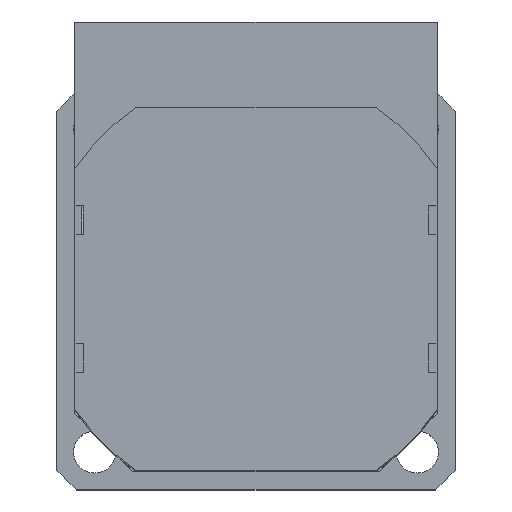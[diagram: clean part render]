
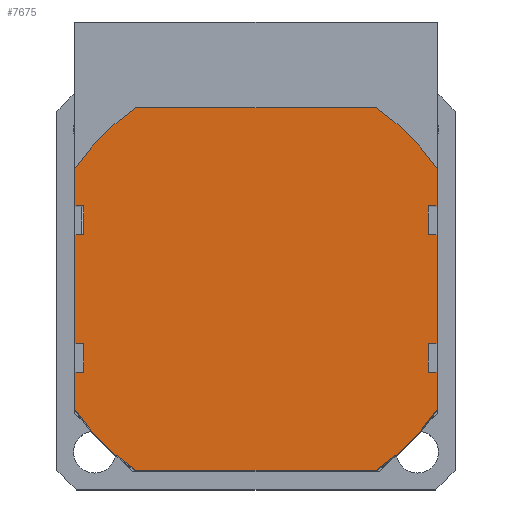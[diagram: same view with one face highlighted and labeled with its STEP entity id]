
A CAD part, top view. The second image highlights one B-rep face of the part: STEP entity #7675.
In plain terms, the highlighted planar face has unit normal (0, 0, 1).
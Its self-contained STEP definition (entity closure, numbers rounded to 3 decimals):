
#2075=LINE('',#11049,#9099);
#2076=LINE('',#11052,#9100);
#2077=LINE('',#11054,#9101);
#2078=LINE('',#11056,#9102);
#2079=LINE('',#11060,#9103);
#2080=LINE('',#11064,#9104);
#2081=LINE('',#11066,#9105);
#2082=LINE('',#11068,#9106);
#2083=LINE('',#11070,#9107);
#2084=LINE('',#11072,#9108);
#2085=LINE('',#11074,#9109);
#2086=LINE('',#11076,#9110);
#2087=LINE('',#11078,#9111);
#2088=LINE('',#11080,#9112);
#2089=LINE('',#11084,#9113);
#2090=LINE('',#11088,#9114);
#2091=LINE('',#11090,#9115);
#2092=LINE('',#11092,#9116);
#2093=LINE('',#11094,#9117);
#2094=LINE('',#11096,#9118);
#2770=VERTEX_POINT('',#11050);
#2771=VERTEX_POINT('',#11051);
#2772=VERTEX_POINT('',#11053);
#2773=VERTEX_POINT('',#11055);
#2774=VERTEX_POINT('',#11057);
#2775=VERTEX_POINT('',#11059);
#2776=VERTEX_POINT('',#11061);
#2777=VERTEX_POINT('',#11063);
#2778=VERTEX_POINT('',#11065);
#2779=VERTEX_POINT('',#11067);
#2780=VERTEX_POINT('',#11069);
#2781=VERTEX_POINT('',#11071);
#2782=VERTEX_POINT('',#11073);
#2783=VERTEX_POINT('',#11075);
#2784=VERTEX_POINT('',#11077);
#2785=VERTEX_POINT('',#11079);
#2786=VERTEX_POINT('',#11081);
#2787=VERTEX_POINT('',#11083);
#2788=VERTEX_POINT('',#11085);
#2789=VERTEX_POINT('',#11087);
#2790=VERTEX_POINT('',#11089);
#2791=VERTEX_POINT('',#11091);
#2792=VERTEX_POINT('',#11093);
#2793=VERTEX_POINT('',#11095);
#3359=CIRCLE('',#8310,30.);
#3360=CIRCLE('',#8311,30.);
#3361=CIRCLE('',#8312,30.);
#3362=CIRCLE('',#8313,30.);
#3863=EDGE_CURVE('',#2770,#2771,#2075,.T.);
#3864=EDGE_CURVE('',#2772,#2770,#2076,.T.);
#3865=EDGE_CURVE('',#2773,#2772,#2077,.T.);
#3866=EDGE_CURVE('',#2774,#2773,#2078,.T.);
#3867=EDGE_CURVE('',#2775,#2774,#3359,.T.);
#3868=EDGE_CURVE('',#2776,#2775,#2079,.T.);
#3869=EDGE_CURVE('',#2777,#2776,#3360,.T.);
#3870=EDGE_CURVE('',#2778,#2777,#2080,.T.);
#3871=EDGE_CURVE('',#2779,#2778,#2081,.T.);
#3872=EDGE_CURVE('',#2780,#2779,#2082,.T.);
#3873=EDGE_CURVE('',#2781,#2780,#2083,.T.);
#3874=EDGE_CURVE('',#2782,#2781,#2084,.T.);
#3875=EDGE_CURVE('',#2783,#2782,#2085,.T.);
#3876=EDGE_CURVE('',#2784,#2783,#2086,.T.);
#3877=EDGE_CURVE('',#2785,#2784,#2087,.T.);
#3878=EDGE_CURVE('',#2786,#2785,#2088,.T.);
#3879=EDGE_CURVE('',#2787,#2786,#3361,.T.);
#3880=EDGE_CURVE('',#2788,#2787,#2089,.T.);
#3881=EDGE_CURVE('',#2789,#2788,#3362,.T.);
#3882=EDGE_CURVE('',#2790,#2789,#2090,.T.);
#3883=EDGE_CURVE('',#2791,#2790,#2091,.T.);
#3884=EDGE_CURVE('',#2792,#2791,#2092,.T.);
#3885=EDGE_CURVE('',#2793,#2792,#2093,.T.);
#3886=EDGE_CURVE('',#2771,#2793,#2094,.T.);
#5084=ORIENTED_EDGE('',*,*,#3863,.F.);
#5085=ORIENTED_EDGE('',*,*,#3864,.F.);
#5086=ORIENTED_EDGE('',*,*,#3865,.F.);
#5087=ORIENTED_EDGE('',*,*,#3866,.F.);
#5088=ORIENTED_EDGE('',*,*,#3867,.F.);
#5089=ORIENTED_EDGE('',*,*,#3868,.F.);
#5090=ORIENTED_EDGE('',*,*,#3869,.F.);
#5091=ORIENTED_EDGE('',*,*,#3870,.F.);
#5092=ORIENTED_EDGE('',*,*,#3871,.F.);
#5093=ORIENTED_EDGE('',*,*,#3872,.F.);
#5094=ORIENTED_EDGE('',*,*,#3873,.F.);
#5095=ORIENTED_EDGE('',*,*,#3874,.F.);
#5096=ORIENTED_EDGE('',*,*,#3875,.F.);
#5097=ORIENTED_EDGE('',*,*,#3876,.F.);
#5098=ORIENTED_EDGE('',*,*,#3877,.F.);
#5099=ORIENTED_EDGE('',*,*,#3878,.F.);
#5100=ORIENTED_EDGE('',*,*,#3879,.F.);
#5101=ORIENTED_EDGE('',*,*,#3880,.F.);
#5102=ORIENTED_EDGE('',*,*,#3881,.F.);
#5103=ORIENTED_EDGE('',*,*,#3882,.F.);
#5104=ORIENTED_EDGE('',*,*,#3883,.F.);
#5105=ORIENTED_EDGE('',*,*,#3884,.F.);
#5106=ORIENTED_EDGE('',*,*,#3885,.F.);
#5107=ORIENTED_EDGE('',*,*,#3886,.F.);
#6699=EDGE_LOOP('',(#5084,#5085,#5086,#5087,#5088,#5089,#5090,#5091,#5092,
#5093,#5094,#5095,#5096,#5097,#5098,#5099,#5100,#5101,#5102,#5103,#5104,
#5105,#5106,#5107));
#7199=FACE_BOUND('',#6699,.T.);
#7675=ADVANCED_FACE('',(#7199),#9570,.T.);
#8309=AXIS2_PLACEMENT_3D('',#11048,#15374,$);
#8310=AXIS2_PLACEMENT_3D('',#11058,#15379,#15380);
#8311=AXIS2_PLACEMENT_3D('',#11062,#15382,#15383);
#8312=AXIS2_PLACEMENT_3D('',#11082,#15393,#15394);
#8313=AXIS2_PLACEMENT_3D('',#11086,#15396,#15397);
#9099=VECTOR('',#15375,1.);
#9100=VECTOR('',#15376,1.);
#9101=VECTOR('',#15377,1.);
#9102=VECTOR('',#15378,1.);
#9103=VECTOR('',#15381,1.);
#9104=VECTOR('',#15384,1.);
#9105=VECTOR('',#15385,1.);
#9106=VECTOR('',#15386,1.);
#9107=VECTOR('',#15387,1.);
#9108=VECTOR('',#15388,1.);
#9109=VECTOR('',#15389,1.);
#9110=VECTOR('',#15390,1.);
#9111=VECTOR('',#15391,1.);
#9112=VECTOR('',#15392,1.);
#9113=VECTOR('',#15395,1.);
#9114=VECTOR('',#15398,1.);
#9115=VECTOR('',#15399,1.);
#9116=VECTOR('',#15400,1.);
#9117=VECTOR('',#15401,1.);
#9118=VECTOR('',#15402,1.);
#9570=PLANE('',#8309);
#11048=CARTESIAN_POINT('',(0.,0.,73.5));
#11049=CARTESIAN_POINT('',(23.8,7.5,73.5));
#11050=CARTESIAN_POINT('',(23.8,7.5,73.5));
#11051=CARTESIAN_POINT('',(25.,7.5,73.5));
#11052=CARTESIAN_POINT('',(23.8,11.5,73.5));
#11053=CARTESIAN_POINT('',(23.8,11.5,73.5));
#11054=CARTESIAN_POINT('',(25.,11.5,73.5));
#11055=CARTESIAN_POINT('',(25.,11.5,73.5));
#11056=CARTESIAN_POINT('',(25.,16.583,73.5));
#11057=CARTESIAN_POINT('',(25.,16.583,73.5));
#11058=CARTESIAN_POINT('',(0.,0.,73.5));
#11059=CARTESIAN_POINT('',(16.583,25.,73.5));
#11060=CARTESIAN_POINT('',(-16.583,25.,73.5));
#11061=CARTESIAN_POINT('',(-16.583,25.,73.5));
#11062=CARTESIAN_POINT('',(0.,0.,73.5));
#11063=CARTESIAN_POINT('',(-25.,16.583,73.5));
#11064=CARTESIAN_POINT('',(-25.,11.5,73.5));
#11065=CARTESIAN_POINT('',(-25.,11.5,73.5));
#11066=CARTESIAN_POINT('',(-23.8,11.5,73.5));
#11067=CARTESIAN_POINT('',(-23.8,11.5,73.5));
#11068=CARTESIAN_POINT('',(-23.8,7.5,73.5));
#11069=CARTESIAN_POINT('',(-23.8,7.5,73.5));
#11070=CARTESIAN_POINT('',(-25.,7.5,73.5));
#11071=CARTESIAN_POINT('',(-25.,7.5,73.5));
#11072=CARTESIAN_POINT('',(-25.,-7.5,73.5));
#11073=CARTESIAN_POINT('',(-25.,-7.5,73.5));
#11074=CARTESIAN_POINT('',(-23.8,-7.5,73.5));
#11075=CARTESIAN_POINT('',(-23.8,-7.5,73.5));
#11076=CARTESIAN_POINT('',(-23.8,-11.5,73.5));
#11077=CARTESIAN_POINT('',(-23.8,-11.5,73.5));
#11078=CARTESIAN_POINT('',(-25.,-11.5,73.5));
#11079=CARTESIAN_POINT('',(-25.,-11.5,73.5));
#11080=CARTESIAN_POINT('',(-25.,-16.583,73.5));
#11081=CARTESIAN_POINT('',(-25.,-16.583,73.5));
#11082=CARTESIAN_POINT('',(0.,0.,73.5));
#11083=CARTESIAN_POINT('',(-16.583,-25.,73.5));
#11084=CARTESIAN_POINT('',(16.583,-25.,73.5));
#11085=CARTESIAN_POINT('',(16.583,-25.,73.5));
#11086=CARTESIAN_POINT('',(0.,0.,73.5));
#11087=CARTESIAN_POINT('',(25.,-16.583,73.5));
#11088=CARTESIAN_POINT('',(25.,-11.5,73.5));
#11089=CARTESIAN_POINT('',(25.,-11.5,73.5));
#11090=CARTESIAN_POINT('',(23.8,-11.5,73.5));
#11091=CARTESIAN_POINT('',(23.8,-11.5,73.5));
#11092=CARTESIAN_POINT('',(23.8,-7.5,73.5));
#11093=CARTESIAN_POINT('',(23.8,-7.5,73.5));
#11094=CARTESIAN_POINT('',(25.,-7.5,73.5));
#11095=CARTESIAN_POINT('',(25.,-7.5,73.5));
#11096=CARTESIAN_POINT('',(25.,7.5,73.5));
#15374=DIRECTION('',(0.,0.,1.));
#15375=DIRECTION('',(1.,0.,0.));
#15376=DIRECTION('',(0.,-1.,0.));
#15377=DIRECTION('',(-1.,0.,0.));
#15378=DIRECTION('',(0.,-1.,0.));
#15379=DIRECTION('',(0.,0.,-1.));
#15380=DIRECTION('',(30.,0.,0.));
#15381=DIRECTION('',(1.,0.,0.));
#15382=DIRECTION('',(0.,0.,-1.));
#15383=DIRECTION('',(30.,0.,0.));
#15384=DIRECTION('',(0.,1.,0.));
#15385=DIRECTION('',(-1.,0.,0.));
#15386=DIRECTION('',(0.,1.,0.));
#15387=DIRECTION('',(1.,0.,0.));
#15388=DIRECTION('',(0.,1.,0.));
#15389=DIRECTION('',(-1.,0.,0.));
#15390=DIRECTION('',(0.,1.,0.));
#15391=DIRECTION('',(1.,0.,0.));
#15392=DIRECTION('',(0.,1.,0.));
#15393=DIRECTION('',(0.,0.,-1.));
#15394=DIRECTION('',(30.,0.,0.));
#15395=DIRECTION('',(-1.,0.,0.));
#15396=DIRECTION('',(0.,0.,-1.));
#15397=DIRECTION('',(30.,0.,0.));
#15398=DIRECTION('',(0.,-1.,0.));
#15399=DIRECTION('',(1.,0.,0.));
#15400=DIRECTION('',(0.,-1.,0.));
#15401=DIRECTION('',(-1.,0.,0.));
#15402=DIRECTION('',(0.,-1.,0.));
